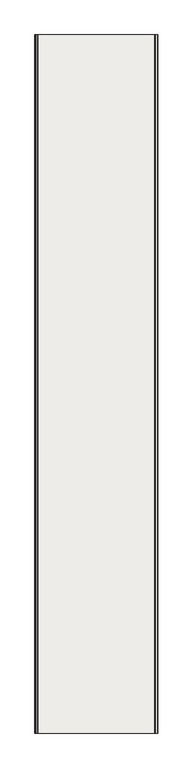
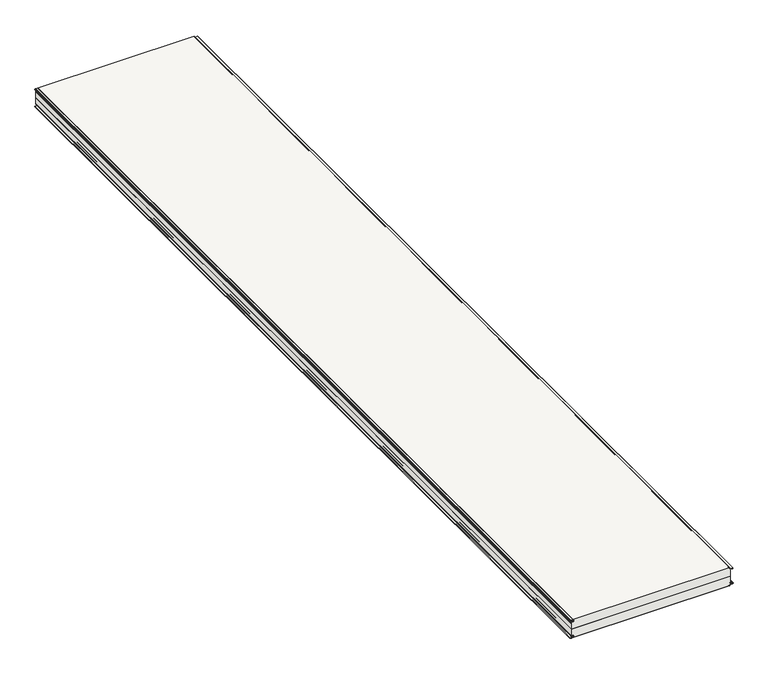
"""IFC4 building model written with IfcOpenShell, lengths in millimetres: covering geometry, Wall sandwich panel SPW-S CORE PIR (single sheet) : -."""

from ifc_helpers import new_model, si_unit, point, frame, frame_2d, origin, place, context, project, spatial, polyline, circle_curve, trimmed, segment, composite_curve, outline, extrude, source, transform, mapped, element, save
from ifc_brep_helpers import plane_surface, cylinder_surface, revolved_surface, advanced_brep


def covering_d70cc3ef(model_context):
    return source(origin(), model_context, "Body", "SolidModel", [
        extrude(outline(composite_curve([segment(trimmed(circle_curve(frame_2d((-117.0000044, -1037.1173522)), 1.9999956), [point((-119.0, -1037.1173522))], [point((-115.0012272, -1037.1871545))], True, "CARTESIAN"), True, "CONTINUOUS"), segment(polyline([(-115.0012272, -1037.1871545), (-114.4480424, -1021.346807)]), True, "CONTINUOUS"), segment(trimmed(circle_curve(frame_2d((-109.950784, -1021.5038626)), 4.5), [point((-114.4480424, -1021.346807))], [point((-105.4569506, -1021.2683586))], False, "CARTESIAN"), True, "CONTINUOUS"), segment(polyline([(-105.4569506, -1021.2683586), (-104.890434, -1032.0785013)]), True, "CONTINUOUS"), segment(trimmed(circle_curve(frame_2d((-103.3924895, -1032.0)), 1.5), [point((-104.890434, -1032.0785013))], [point((-103.3924895, -1033.5))], True, "CARTESIAN"), True, "CONTINUOUS"), segment(polyline([(-103.3924895, -1033.5), (-100.8924895, -1033.5), (-100.8924895, -1034.5), (-103.3924895, -1034.5)]), True, "CONTINUOUS"), segment(trimmed(circle_curve(frame_2d((-103.3924895, -1032.0)), 2.5), [point((-103.3924895, -1034.5))], [point((-105.8890636, -1032.1308355))], False, "CARTESIAN"), True, "CONTINUOUS"), segment(polyline([(-105.8890636, -1032.1308355), (-106.4555803, -1021.3206928)]), True, "CONTINUOUS"), segment(trimmed(circle_curve(frame_2d((-109.950784, -1021.5038626)), 3.5), [point((-106.4555803, -1021.3206928))], [point((-113.4486516, -1021.3817082))], True, "CARTESIAN"), True, "CONTINUOUS"), segment(polyline([(-113.4486516, -1021.3817082), (-114.0018364, -1037.2220557)]), True, "CONTINUOUS"), segment(trimmed(circle_curve(frame_2d((-117.0000044, -1037.1173522)), 2.9999956), [point((-114.0018364, -1037.2220557))], [point((-120.0, -1037.1173522))], False, "CARTESIAN"), True, "CONTINUOUS"), segment(polyline([(-120.0, -1037.1173522), (-120.0, -1035.0), (-119.0, -1035.0), (-119.0, -1037.1173522)]), True, "CONTINUOUS")], self_intersect=False)), frame((0.0, -5800.0, 0.0), z_axis=(0.0, 1.0, 0.0), x_axis=(0.0, 0.0, 1.0)), (0.0, 0.0, 1.0), 5800.0),
        extrude(outline(composite_curve([segment(polyline([(-1.0, -1037.1173522), (-1.0, -1035.0), (0.0, -1035.0), (0.0, -1037.1173522)]), True, "CONTINUOUS"), segment(trimmed(circle_curve(frame_2d((-2.9999956, -1037.1173522)), 2.9999956), [point((0.0, -1037.1173522))], [point((-5.9981636, -1037.2220557))], False, "CARTESIAN"), True, "CONTINUOUS"), segment(polyline([(-5.9981636, -1037.2220557), (-6.5513484, -1021.3817082)]), True, "CONTINUOUS"), segment(trimmed(circle_curve(frame_2d((-10.049216, -1021.5038626)), 3.5), [point((-6.5513484, -1021.3817082))], [point((-13.5444197, -1021.3206928))], True, "CARTESIAN"), True, "CONTINUOUS"), segment(polyline([(-13.5444197, -1021.3206928), (-14.1109364, -1032.1308355)]), True, "CONTINUOUS"), segment(trimmed(circle_curve(frame_2d((-16.6075105, -1032.0)), 2.5), [point((-14.1109364, -1032.1308355))], [point((-16.6075105, -1034.5))], False, "CARTESIAN"), True, "CONTINUOUS"), segment(polyline([(-16.6075105, -1034.5), (-19.1075105, -1034.5), (-19.1075105, -1033.5), (-16.6075105, -1033.5)]), True, "CONTINUOUS"), segment(trimmed(circle_curve(frame_2d((-16.6075105, -1032.0)), 1.5), [point((-16.6075105, -1033.5))], [point((-15.109566, -1032.0785013))], True, "CARTESIAN"), True, "CONTINUOUS"), segment(polyline([(-15.109566, -1032.0785013), (-14.5430494, -1021.2683586)]), True, "CONTINUOUS"), segment(trimmed(circle_curve(frame_2d((-10.049216, -1021.5038626)), 4.5), [point((-14.5430494, -1021.2683586))], [point((-5.5519576, -1021.346807))], False, "CARTESIAN"), True, "CONTINUOUS"), segment(polyline([(-5.5519576, -1021.346807), (-4.9987728, -1037.1871545)]), True, "CONTINUOUS"), segment(trimmed(circle_curve(frame_2d((-2.9999956, -1037.1173522)), 1.9999956), [point((-4.9987728, -1037.1871545))], [point((-1.0, -1037.1173522))], True, "CARTESIAN"), True, "CONTINUOUS")], self_intersect=False)), frame((0.0, -5800.0, 0.0), z_axis=(0.0, 1.0, 0.0), x_axis=(0.0, 0.0, 1.0)), (0.0, 0.0, 1.0), 5800.0),
        advanced_brep(
        [(-1035.0, 0.0, -119.0), (-43.1186621, 0.0, -119.0), (-41.1186621, 0.0, -117.0), (-41.1186621, 0.0, -114.93), (-39.1884611, 0.0, -112.9312183), (-22.5992017, 0.0, -112.3519086), (-22.43132, 0.0, -107.5379716), (-33.6570079, 0.0, -106.9496582), (-36.5, 0.0, -103.9537696), (-36.5, 0.0, -101.4537696), (-35.5, 0.0, -101.4537696), (-35.5, 0.0, -103.9537696), (-33.6046719, 0.0, -105.9510287), (-22.6071775, 0.0, -106.5273829), (-22.6835162, 0.0, -113.3501612), (-39.1535616, 0.0, -113.9306092), (-40.1186621, 0.0, -114.93), (-40.1186621, 0.0, -117.0), (-43.1186621, 0.0, -120.0), (-1035.0, 0.0, -120.0), (-1035.0, -5800.0, -119.0), (-1035.0, -5800.0, -120.0), (-43.1186621, -5800.0, -120.0), (-40.1186621, -5800.0, -117.0), (-40.1186621, -5800.0, -114.93), (-39.1535616, -5800.0, -113.9306092), (-22.7218558, -5800.0, -113.3568014), (-22.6835162, -5800.0, -106.5247545), (-33.6046719, -5800.0, -105.9510287), (-35.5, -5800.0, -103.9537696), (-35.5, -5800.0, -101.4537696), (-36.5, -5800.0, -101.4537696), (-36.5, -5800.0, -103.9537696), (-33.6570079, -5800.0, -106.9496582), (-22.43132, -5800.0, -107.5379716), (-22.5993141, -5800.0, -112.3486915), (-39.1884611, -5800.0, -112.9312183), (-41.1186621, -5800.0, -114.93), (-41.1186621, -5800.0, -117.0), (-43.1186621, -5800.0, -119.0)],
        [
            (0, 1),
            (1, 2, circle_curve(frame((-43.1186621, 0.0, -117.0), z_axis=(0.0, -1.0, 0.0), x_axis=(1.0, 0.0, 0.0)), 2.0)),
            (2, 3),
            (3, 4, circle_curve(frame((-39.1186621, 0.0, -114.93), z_axis=(0.0, 1.0, 0.0), x_axis=(1.0, 0.0, 0.0)), 2.0)),
            (4, 5),
            (5, 6, circle_curve(frame((-22.6835162, 0.0, -109.9374579), z_axis=(0.0, -1.0, 0.0), x_axis=(1.0, 0.0, 0.0)), 2.4127033)),
            (6, 7),
            (7, 8, circle_curve(frame((-33.5, 0.0, -103.9537696), z_axis=(0.0, 1.0, 0.0), x_axis=(1.0, 0.0, 0.0)), 3.0)),
            (8, 9),
            (9, 10),
            (10, 11),
            (11, 12, circle_curve(frame((-33.5, 0.0, -103.9537696), z_axis=(0.0, -1.0, 0.0), x_axis=(1.0, 0.0, 0.0)), 2.0)),
            (12, 13),
            (13, 14, circle_curve(frame((-22.6835162, 0.0, -109.9374579), z_axis=(0.0, 1.0, 0.0), x_axis=(1.0, 0.0, 0.0)), 3.4127033)),
            (14, 15),
            (15, 16, circle_curve(frame((-39.1186621, 0.0, -114.93), z_axis=(0.0, -1.0, 0.0), x_axis=(1.0, 0.0, 0.0)), 1.0)),
            (16, 17),
            (17, 18, circle_curve(frame((-43.1186621, 0.0, -117.0), z_axis=(0.0, 1.0, 0.0), x_axis=(1.0, 0.0, 0.0)), 3.0)),
            (18, 19),
            (19, 0),
            (20, 21),
            (21, 22),
            (22, 23, circle_curve(frame((-43.1186621, -5800.0, -117.0), z_axis=(0.0, -1.0, 0.0), x_axis=(1.0, 0.0, 0.0)), 3.0)),
            (23, 24),
            (24, 25, circle_curve(frame((-39.1186621, -5800.0, -114.93), z_axis=(0.0, 1.0, 0.0), x_axis=(1.0, 0.0, 0.0)), 1.0)),
            (25, 26),
            (26, 27, circle_curve(frame((-22.6835162, -5800.0, -109.9374579), z_axis=(0.0, -1.0, 0.0), x_axis=(1.0, 0.0, 0.0)), 3.4127033)),
            (27, 28),
            (28, 29, circle_curve(frame((-33.5, -5800.0, -103.9537696), z_axis=(0.0, 1.0, 0.0), x_axis=(1.0, 0.0, 0.0)), 2.0)),
            (29, 30),
            (30, 31),
            (31, 32),
            (32, 33, circle_curve(frame((-33.5, -5800.0, -103.9537696), z_axis=(0.0, -1.0, 0.0), x_axis=(1.0, 0.0, 0.0)), 3.0)),
            (33, 34),
            (34, 35, circle_curve(frame((-22.6835162, -5800.0, -109.9374579), z_axis=(0.0, 1.0, 0.0), x_axis=(1.0, 0.0, 0.0)), 2.4127033)),
            (35, 36),
            (36, 37, circle_curve(frame((-39.1186621, -5800.0, -114.93), z_axis=(0.0, -1.0, 0.0), x_axis=(1.0, 0.0, 0.0)), 2.0)),
            (37, 38),
            (38, 39, circle_curve(frame((-43.1186621, -5800.0, -117.0), z_axis=(0.0, 1.0, 0.0), x_axis=(1.0, 0.0, 0.0)), 2.0)),
            (39, 20),
            (0, 20),
            (39, 1),
            (18, 22),
            (21, 19),
            (3, 37),
            (36, 4),
            (2, 38),
            (35, 5),
            (6, 34),
            (33, 7),
            (9, 31),
            (30, 10),
            (32, 8),
            (15, 25),
            (24, 16),
            (29, 11),
            (28, 12),
            (27, 13),
            (26, 14),
            (23, 17),
        ],
        [
            plane_surface(frame((-30.0, 0.0, -120.0), z_axis=(0.0, 1.0, 0.0), x_axis=(-1.0, 0.0, 0.0))),
            plane_surface(frame((-30.0, -5800.0, -120.0), z_axis=(0.0, -1.0, 0.0), x_axis=(-1.0, 0.0, 0.0))),
            plane_surface(frame((-1035.0, 0.0, -119.0), z_axis=(0.0, 0.0, 1.0), x_axis=(0.0, -1.0, 0.0))),
            plane_surface(frame((-43.1186621, 0.0, -120.0), z_axis=(0.0, 0.0, -1.0), x_axis=(0.0, -1.0, 0.0))),
            cylinder_surface(frame((-39.1186621, 0.0, -114.93), z_axis=(0.0, 1.0, 0.0), x_axis=(1.0, 0.0, 0.0)), 2.0),
            plane_surface(frame((-41.1186621, 0.0, -117.0), z_axis=(-1.0, 0.0, 0.0), x_axis=(0.0, -1.0, 0.0))),
            revolved_surface(polyline([(-41.1186621, -5800.0, -117.0), (-41.1186621, 0.0, -117.0)]), (-43.1186621, 0.0, -117.0), (0.0, -1.0, 0.0)),
            plane_surface(frame((-39.1884611, 0.0, -112.9312183), z_axis=(-0.034899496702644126, 0.0, 0.9993908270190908), x_axis=(0.0, -1.0, 0.0))),
            plane_surface(frame((-22.43132, 0.0, -107.5379716), z_axis=(-0.05233595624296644, 0.0, -0.9986295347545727), x_axis=(0.0, -1.0, 0.0))),
            plane_surface(frame((-36.5, 0.0, -101.4537696), z_axis=(0.0, 0.0, 1.0), x_axis=(0.0, -1.0, 0.0))),
            cylinder_surface(frame((-33.5, 0.0, -103.9537696), z_axis=(0.0, 1.0, 0.0), x_axis=(1.0, 0.0, 0.0)), 3.0),
            plane_surface(frame((-36.5, 0.0, -103.9537696), z_axis=(-1.0, 0.0, 0.0), x_axis=(0.0, -1.0, 0.0))),
            revolved_surface(polyline([(-38.1186621, -5800.0, -114.93), (-38.1186621, 0.0, -114.93)]), (-39.1186621, 0.0, -114.93), (0.0, -1.0, 0.0)),
            plane_surface(frame((-35.5, 0.0, -101.4537696), z_axis=(1.0, 0.0, 0.0), x_axis=(0.0, -1.0, 0.0))),
            revolved_surface(polyline([(-31.5, -5800.0, -103.9537696), (-31.5, 0.0, -103.9537696)]), (-33.5, 0.0, -103.9537696), (0.0, -1.0, 0.0)),
            plane_surface(frame((-33.6046719, 0.0, -105.9510287), z_axis=(0.05233595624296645, 0.0, 0.9986295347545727), x_axis=(0.0, -1.0, 0.0))),
            revolved_surface(polyline([(-20.2708129, -5800.0, -109.9374579), (-20.2708129, 0.0, -109.9374579)]), (-22.6835162, 0.0, -109.9374579), (0.0, -1.0, 0.0)),
            cylinder_surface(frame((-22.6835162, 0.0, -109.9374579), z_axis=(0.0, 1.0, 0.0), x_axis=(1.0, 0.0, 0.0)), 3.4127033),
            plane_surface(frame((-1035.0, 0.0, -120.0), z_axis=(-1.0, 0.0, 0.0), x_axis=(0.0, -1.0, 0.0))),
            plane_surface(frame((-22.7218558, 0.0, -113.3568014), z_axis=(0.03489949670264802, 0.0, -0.9993908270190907), x_axis=(0.0, -1.0, 0.0))),
            plane_surface(frame((-40.1186621, 0.0, -114.93), z_axis=(1.0, 0.0, 0.0), x_axis=(0.0, -1.0, 0.0))),
            cylinder_surface(frame((-43.1186621, 0.0, -117.0), z_axis=(0.0, 1.0, 0.0), x_axis=(1.0, 0.0, 0.0)), 3.0),
        ],
        [
            (0, [[1, 2, 3, 4, 5, 6, 7, 8, 9, 10, 11, 12, 13, 14, 15, 16, 17, 18, 19, 20]]),
            (1, [[21, 22, 23, 24, 25, 26, 27, 28, 29, 30, 31, 32, 33, 34, 35, 36, 37, 38, 39, 40]]),
            (2, [[-1, 41, -40, 42]]),
            (3, [[-19, 43, -22, 44]]),
            (4, [[-4, 45, -37, 46]]),
            (5, [[-3, 47, -38, -45]]),
            (6, [[-2, -42, -39, -47]]),
            (7, [[-5, -46, -36, 48]]),
            (8, [[-7, 49, -34, 50]]),
            (9, [[-10, 51, -31, 52]]),
            (10, [[-8, -50, -33, 53]]),
            (11, [[-9, -53, -32, -51]]),
            (12, [[-16, 54, -25, 55]]),
            (13, [[-11, -52, -30, 56]]),
            (14, [[-12, -56, -29, 57]]),
            (15, [[-13, -57, -28, 58]]),
            (16, [[-6, -48, -35, -49]]),
            (17, [[-14, -58, -27, 59]]),
            (18, [[-20, -44, -21, -41]]),
            (19, [[-15, -59, -26, -54]]),
            (20, [[-17, -55, -24, 60]]),
            (21, [[-18, -60, -23, -43]]),
        ],
    ),
        advanced_brep(
        [(-1037.1871545, -5800.0, -115.0012272), (-1037.1871545, 0.0, -115.0012272), (-1037.1173522, 0.0, -119.0), (-1037.1173522, -5800.0, -119.0), (-1021.346807, -5800.0, -114.4480424), (-1021.346807, 0.0, -114.4480424), (-1021.2683586, -5800.0, -105.4569506), (-1021.2683586, 0.0, -105.4569506), (-1032.0785013, -5800.0, -104.890434), (-1032.0785013, 0.0, -104.890434), (-1033.5, -5800.0, -103.3924895), (-1033.5, 0.0, -103.3924895), (-1033.5, -5800.0, -60.0), (-1033.5, 0.0, -60.0), (-1035.0, -5800.0, -119.0), (-44.6192414, -5800.0, -119.0), (-43.1186621, -5800.0, -119.0), (-41.1186621, -5800.0, -117.0), (-41.1186621, -5800.0, -114.93), (-39.1884611, -5800.0, -112.9312183), (-22.5992017, -5800.0, -112.3519086), (-22.1786572, -5800.0, -107.5781667), (-33.6570078, -5800.0, -106.9496582), (-36.5, -5800.0, -103.9537696), (-36.5, -5800.0, -60.0), (-1035.0, 0.0, -119.0), (-36.5, 0.0, -60.0), (-36.5, 0.0, -103.9537696), (-33.6570078, 0.0, -106.9496582), (-22.1786572, 0.0, -107.5781667), (-22.5993141, 0.0, -112.3486915), (-39.1884611, 0.0, -112.9312183), (-41.1186621, 0.0, -114.93), (-41.1186621, 0.0, -117.0), (-43.1186621, 0.0, -119.0), (-44.6192414, 0.0, -119.0)],
        [
            (0, 1),
            (1, 2, circle_curve(frame((-1037.1173522, 0.0, -117.0000044), z_axis=(0.0, -1.0, 0.0), x_axis=(-1.0, 0.0, 0.0)), 1.9999956)),
            (2, 3),
            (3, 0, circle_curve(frame((-1037.1173522, -5800.0, -117.0000044), z_axis=(0.0, 1.0, 0.0), x_axis=(-1.0, 0.0, 0.0)), 1.9999956)),
            (0, 4),
            (4, 5),
            (5, 1),
            (4, 6, circle_curve(frame((-1021.5038626, -5800.0, -109.950784), z_axis=(0.0, -1.0, 0.0), x_axis=(-1.0, 0.0, 0.0)), 4.5)),
            (6, 7),
            (7, 5, circle_curve(frame((-1021.5038626, 0.0, -109.950784), z_axis=(0.0, 1.0, 0.0), x_axis=(-1.0, 0.0, 0.0)), 4.5)),
            (6, 8),
            (8, 9),
            (9, 7),
            (8, 10, circle_curve(frame((-1032.0, -5800.0, -103.3924895), z_axis=(0.0, 1.0, 0.0), x_axis=(-1.0, 0.0, 0.0)), 1.5)),
            (10, 11),
            (11, 9, circle_curve(frame((-1032.0, 0.0, -103.3924895), z_axis=(0.0, -1.0, 0.0), x_axis=(-1.0, 0.0, 0.0)), 1.5)),
            (10, 12),
            (12, 13),
            (13, 11),
            (3, 14),
            (14, 15),
            (15, 16),
            (16, 17, circle_curve(frame((-43.1186621, -5800.0, -117.0), z_axis=(0.0, -1.0, 0.0), x_axis=(-1.0, 0.0, 0.0)), 2.0)),
            (17, 18),
            (18, 19, circle_curve(frame((-39.1186621, -5800.0, -114.93), z_axis=(0.0, 1.0, 0.0), x_axis=(-1.0, 0.0, 0.0)), 2.0)),
            (19, 20),
            (20, 21, circle_curve(frame((-22.6835162, -5800.0, -109.9374579), z_axis=(0.0, -1.0, 0.0), x_axis=(-1.0, 0.0, 0.0)), 2.4127033)),
            (21, 22),
            (22, 23, circle_curve(frame((-33.5, -5800.0, -103.9537696), z_axis=(0.0, 1.0, 0.0), x_axis=(-1.0, 0.0, 0.0)), 3.0)),
            (23, 24),
            (24, 12),
            (25, 2),
            (13, 26),
            (26, 27),
            (27, 28, circle_curve(frame((-33.5, 0.0, -103.9537696), z_axis=(0.0, -1.0, 0.0), x_axis=(-1.0, 0.0, 0.0)), 3.0)),
            (28, 29),
            (29, 30, circle_curve(frame((-22.6835162, 0.0, -109.9374579), z_axis=(0.0, 1.0, 0.0), x_axis=(-1.0, 0.0, 0.0)), 2.4127033)),
            (30, 31),
            (31, 32, circle_curve(frame((-39.1186621, 0.0, -114.93), z_axis=(0.0, -1.0, 0.0), x_axis=(-1.0, 0.0, 0.0)), 2.0)),
            (32, 33),
            (33, 34, circle_curve(frame((-43.1186621, 0.0, -117.0), z_axis=(0.0, 1.0, 0.0), x_axis=(-1.0, 0.0, 0.0)), 2.0)),
            (34, 35),
            (35, 25),
            (24, 26),
            (34, 16),
            (23, 27),
            (22, 28),
            (21, 29),
            (20, 30),
            (19, 31),
            (18, 32),
            (17, 33),
        ],
        [
            cylinder_surface(frame((-1037.1173522, -5800.0, -117.0000044), z_axis=(0.0, 1.0, 0.0), x_axis=(-1.0, 0.0, 0.0)), 1.9999956),
            plane_surface(frame((-1037.1871545, -5800.0, -115.0012272), z_axis=(-0.034901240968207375, 0.0, 0.9993907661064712), x_axis=(0.0, 1.0, 0.0))),
            revolved_surface(polyline([(-1026.0038626, -5800.0, -109.950784), (-1026.0038626, 0.0, -109.950784)]), (-1021.5038626, -5800.0, -109.950784), (0.0, -1.0, 0.0)),
            plane_surface(frame((-1021.2683586, -5800.0, -105.4569506), z_axis=(-0.05233421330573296, 0.0, -0.9986296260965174), x_axis=(0.0, 1.0, 0.0))),
            cylinder_surface(frame((-1032.0, -5800.0, -103.3924895), z_axis=(0.0, 1.0, 0.0), x_axis=(-1.0, 0.0, 0.0)), 1.5),
            plane_surface(frame((-1033.5, -5800.0, -103.3924895), z_axis=(-1.0, 0.0, 0.0), x_axis=(0.0, 1.0, 0.0))),
            plane_surface(frame((-1065.0, -5800.0, -60.0), z_axis=(0.0, -1.0, 0.0), x_axis=(-1.0, 0.0, 0.0))),
            plane_surface(frame((-1065.0, 0.0, -60.0), z_axis=(0.0, 1.0, 0.0), x_axis=(1.0, 0.0, 0.0))),
            plane_surface(frame((15.0, -5800.0, -60.0), z_axis=(0.0, 0.0, 1.0), x_axis=(0.0, 1.0, 0.0))),
            plane_surface(frame((-1065.0, -5800.0, -119.0), z_axis=(0.0, 0.0, -1.0), x_axis=(0.0, 1.0, 0.0))),
            plane_surface(frame((-36.5, -5800.0, -16.0462304), z_axis=(1.0, 0.0, 0.0), x_axis=(0.0, 1.0, 0.0))),
            revolved_surface(polyline([(-36.5, -5800.0, -103.9537696), (-36.5, 0.0, -103.9537696)]), (-33.5, -5800.0, -103.9537696), (0.0, -1.0, 0.0)),
            plane_surface(frame((-33.6570078, -5800.0, -106.9496582), z_axis=(0.05467409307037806, 0.0, 0.9985042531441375), x_axis=(0.0, 1.0, 0.0))),
            cylinder_surface(frame((-22.6835162, -5800.0, -109.9374579), z_axis=(0.0, 1.0, 0.0), x_axis=(-1.0, 0.0, 0.0)), 2.4127033),
            plane_surface(frame((-22.5992017, -5800.0, -112.3519086), z_axis=(0.034899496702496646, 0.0, -0.9993908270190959), x_axis=(0.0, 1.0, 0.0))),
            revolved_surface(polyline([(-41.1186621, -5800.0, -114.93), (-41.1186621, 0.0, -114.93)]), (-39.1186621, -5800.0, -114.93), (0.0, -1.0, 0.0)),
            plane_surface(frame((-41.1186621, -5800.0, -114.93), z_axis=(1.0, 0.0, 0.0), x_axis=(0.0, 1.0, 0.0))),
            cylinder_surface(frame((-43.1186621, -5800.0, -117.0), z_axis=(0.0, 1.0, 0.0), x_axis=(-1.0, 0.0, 0.0)), 2.0),
        ],
        [
            (0, [[1, 2, 3, 4]]),
            (1, [[-1, 5, 6, 7]]),
            (2, [[-6, 8, 9, 10]]),
            (3, [[-9, 11, 12, 13]]),
            (4, [[-12, 14, 15, 16]]),
            (5, [[-15, 17, 18, 19]]),
            (6, [[20, 21, 22, 23, 24, 25, 26, 27, 28, 29, 30, 31, -17, -14, -11, -8, -5, -4]]),
            (7, [[32, -2, -7, -10, -13, -16, -19, 33, 34, 35, 36, 37, 38, 39, 40, 41, 42, 43]]),
            (8, [[-18, -31, 44, -33]]),
            (9, [[-20, -3, -32, -43, -42, 45, -22, -21]]),
            (10, [[46, -34, -44, -30]]),
            (11, [[-46, -29, 47, -35]]),
            (12, [[-47, -28, 48, -36]]),
            (13, [[-48, -27, 49, -37]]),
            (14, [[-49, -26, 50, -38]]),
            (15, [[-50, -25, 51, -39]]),
            (16, [[-51, -24, 52, -40]]),
            (17, [[-52, -23, -45, -41]]),
        ],
    ),
        advanced_brep(
        [(-1035.0, -5800.0, -1.0), (-1037.1173522, -5800.0, -1.0), (-1037.1871545, -5800.0, -4.9987728), (-1021.346807, -5800.0, -5.5519576), (-1021.2683586, -5800.0, -14.5430494), (-1032.0785013, -5800.0, -15.109566), (-1033.5, -5800.0, -16.6075105), (-1033.5, -5800.0, -60.0), (-36.5, -5800.0, -60.0), (-36.5, -5800.0, -16.0462304), (-33.6570079, -5800.0, -13.0503418), (-22.43132, -5800.0, -12.4620284), (-22.5993141, -5800.0, -7.6513085), (-39.1884611, -5800.0, -7.0687817), (-41.1186621, -5800.0, -5.07), (-41.1186621, -5800.0, -3.0), (-43.1186621, -5800.0, -1.0), (-1037.1173522, 0.0, -1.0), (-1035.0, 0.0, -1.0), (-43.1186621, 0.0, -1.0), (-41.1186621, 0.0, -3.0), (-41.1186621, 0.0, -5.07), (-39.1884611, 0.0, -7.0687817), (-22.5992017, 0.0, -7.6480914), (-22.43132, 0.0, -12.4620284), (-33.6570079, 0.0, -13.0503418), (-36.5, 0.0, -16.0462304), (-36.5, 0.0, -60.0), (-1033.5, 0.0, -60.0), (-1033.5, 0.0, -16.6075105), (-1032.0785013, 0.0, -15.109566), (-1021.2683586, 0.0, -14.5430494), (-1021.346807, 0.0, -5.5519576), (-1037.1871545, 0.0, -4.9987728)],
        [
            (0, 1),
            (1, 2, circle_curve(frame((-1037.1173522, -5800.0, -2.9999956), z_axis=(0.0, -1.0, 0.0), x_axis=(-1.0, 0.0, 0.0)), 1.9999956)),
            (2, 3),
            (3, 4, circle_curve(frame((-1021.5038626, -5800.0, -10.049216), z_axis=(0.0, 1.0, 0.0), x_axis=(-1.0, 0.0, 0.0)), 4.5)),
            (4, 5),
            (5, 6, circle_curve(frame((-1032.0, -5800.0, -16.6075105), z_axis=(0.0, -1.0, 0.0), x_axis=(-1.0, 0.0, 0.0)), 1.5)),
            (6, 7),
            (7, 8),
            (8, 9),
            (9, 10, circle_curve(frame((-33.5, -5800.0, -16.0462304), z_axis=(0.0, 1.0, 0.0), x_axis=(-1.0, 0.0, 0.0)), 3.0)),
            (10, 11),
            (11, 12, circle_curve(frame((-22.6835162, -5800.0, -10.0625421), z_axis=(0.0, -1.0, 0.0), x_axis=(-1.0, 0.0, 0.0)), 2.4127033)),
            (12, 13),
            (13, 14, circle_curve(frame((-39.1186621, -5800.0, -5.07), z_axis=(0.0, 1.0, 0.0), x_axis=(-1.0, 0.0, 0.0)), 2.0)),
            (14, 15),
            (15, 16, circle_curve(frame((-43.1186621, -5800.0, -3.0), z_axis=(0.0, -1.0, 0.0), x_axis=(-1.0, 0.0, 0.0)), 2.0)),
            (16, 0),
            (17, 18),
            (18, 19),
            (19, 20, circle_curve(frame((-43.1186621, 0.0, -3.0), z_axis=(0.0, 1.0, 0.0), x_axis=(-1.0, 0.0, 0.0)), 2.0)),
            (20, 21),
            (21, 22, circle_curve(frame((-39.1186621, 0.0, -5.07), z_axis=(0.0, -1.0, 0.0), x_axis=(-1.0, 0.0, 0.0)), 2.0)),
            (22, 23),
            (23, 24, circle_curve(frame((-22.6835162, 0.0, -10.0625421), z_axis=(0.0, 1.0, 0.0), x_axis=(-1.0, 0.0, 0.0)), 2.4127033)),
            (24, 25),
            (25, 26, circle_curve(frame((-33.5, 0.0, -16.0462304), z_axis=(0.0, -1.0, 0.0), x_axis=(-1.0, 0.0, 0.0)), 3.0)),
            (26, 27),
            (27, 28),
            (28, 29),
            (29, 30, circle_curve(frame((-1032.0, 0.0, -16.6075105), z_axis=(0.0, 1.0, 0.0), x_axis=(-1.0, 0.0, 0.0)), 1.5)),
            (30, 31),
            (31, 32, circle_curve(frame((-1021.5038626, 0.0, -10.049216), z_axis=(0.0, -1.0, 0.0), x_axis=(-1.0, 0.0, 0.0)), 4.5)),
            (32, 33),
            (33, 17, circle_curve(frame((-1037.1173522, 0.0, -2.9999956), z_axis=(0.0, 1.0, 0.0), x_axis=(-1.0, 0.0, 0.0)), 1.9999956)),
            (16, 19),
            (17, 1),
            (7, 28),
            (27, 8),
            (6, 29),
            (5, 30),
            (4, 31),
            (3, 32),
            (2, 33),
            (15, 20),
            (14, 21),
            (13, 22),
            (12, 23),
            (11, 24),
            (10, 25),
            (9, 26),
        ],
        [
            plane_surface(frame((-1065.0, -5800.0, -1.0), z_axis=(0.0, -1.0, 0.0), x_axis=(-1.0, 0.0, 0.0))),
            plane_surface(frame((-1065.0, 0.0, -1.0), z_axis=(0.0, 1.0, 0.0), x_axis=(1.0, 0.0, 0.0))),
            plane_surface(frame((15.0, -5800.0, -1.0), z_axis=(0.0, 0.0, 1.0), x_axis=(0.0, 1.0, 0.0))),
            plane_surface(frame((-1065.0, -5800.0, -60.0), z_axis=(0.0, 0.0, -1.0), x_axis=(0.0, 1.0, 0.0))),
            plane_surface(frame((-1033.5, -5800.0, -103.3924895), z_axis=(-1.0, 0.0, 0.0), x_axis=(0.0, 1.0, 0.0))),
            cylinder_surface(frame((-1032.0, -5800.0, -16.6075105), z_axis=(0.0, 1.0, 0.0), x_axis=(-1.0, 0.0, 0.0)), 1.5),
            plane_surface(frame((-1032.0785013, -5800.0, -15.109566), z_axis=(-0.052334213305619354, 0.0, 0.9986296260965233), x_axis=(0.0, 1.0, 0.0))),
            revolved_surface(polyline([(-1026.0038626, -5800.0, -10.049216), (-1026.0038626, 0.0, -10.049216)]), (-1021.5038626, -5800.0, -10.049216), (0.0, -1.0, 0.0)),
            plane_surface(frame((-1021.346807, -5800.0, -5.5519576), z_axis=(-0.03490124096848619, 0.0, -0.9993907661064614), x_axis=(0.0, 1.0, 0.0))),
            cylinder_surface(frame((-1037.1173522, -5800.0, -2.9999956), z_axis=(0.0, 1.0, 0.0), x_axis=(-1.0, 0.0, 0.0)), 1.9999956),
            cylinder_surface(frame((-43.1186621, -5800.0, -3.0), z_axis=(0.0, 1.0, 0.0), x_axis=(-1.0, 0.0, 0.0)), 2.0),
            plane_surface(frame((-41.1186621, -5800.0, -3.0), z_axis=(1.0, 0.0, 0.0), x_axis=(0.0, 1.0, 0.0))),
            revolved_surface(polyline([(-41.1186621, -5800.0, -5.07), (-41.1186621, 0.0, -5.07)]), (-39.1186621, -5800.0, -5.07), (0.0, -1.0, 0.0)),
            plane_surface(frame((-39.1884611, -5800.0, -7.0687817), z_axis=(0.03489949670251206, 0.0, 0.9993908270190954), x_axis=(0.0, 1.0, 0.0))),
            cylinder_surface(frame((-22.6835162, -5800.0, -10.0625421), z_axis=(0.0, 1.0, 0.0), x_axis=(-1.0, 0.0, 0.0)), 2.4127033),
            plane_surface(frame((-22.43132, -5800.0, -12.4620284), z_axis=(0.05233595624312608, 0.0, -0.9986295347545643), x_axis=(0.0, 1.0, 0.0))),
            revolved_surface(polyline([(-36.5, -5800.0, -16.0462304), (-36.5, 0.0, -16.0462304)]), (-33.5, -5800.0, -16.0462304), (0.0, -1.0, 0.0)),
            plane_surface(frame((-36.5, -5800.0, -16.0462304), z_axis=(1.0, 0.0, 0.0), x_axis=(0.0, 1.0, 0.0))),
        ],
        [
            (0, [[1, 2, 3, 4, 5, 6, 7, 8, 9, 10, 11, 12, 13, 14, 15, 16, 17]]),
            (1, [[18, 19, 20, 21, 22, 23, 24, 25, 26, 27, 28, 29, 30, 31, 32, 33, 34]]),
            (2, [[-1, -17, 35, -19, -18, 36]]),
            (3, [[37, -28, 38, -8]]),
            (4, [[39, -29, -37, -7]]),
            (5, [[-39, -6, 40, -30]]),
            (6, [[-40, -5, 41, -31]]),
            (7, [[-41, -4, 42, -32]]),
            (8, [[-42, -3, 43, -33]]),
            (9, [[-43, -2, -36, -34]]),
            (10, [[44, -20, -35, -16]]),
            (11, [[-44, -15, 45, -21]]),
            (12, [[-45, -14, 46, -22]]),
            (13, [[-46, -13, 47, -23]]),
            (14, [[-47, -12, 48, -24]]),
            (15, [[-48, -11, 49, -25]]),
            (16, [[-49, -10, 50, -26]]),
            (17, [[-50, -9, -38, -27]]),
        ],
    ),
    ])


if __name__ == "__main__":
    model = new_model("IFC4")
    model_context = context("Model", 3, world=origin())
    ifc_project = project(units=[si_unit("LENGTHUNIT", "METRE", prefix="MILLI")], contexts=[model_context])
    site = spatial("IfcSite", under=ifc_project)
    building = spatial("IfcBuilding", under=site)
    placement = place(None, origin())
    covering_shape = covering_d70cc3ef(model_context)
    element("IfcCovering", 1, ObjectType="Wall sandwich panel SPW-S CORE PIR (single sheet) : -", at=placement, inside=building, context=model_context, shape_type="MappedRepresentation", body=[
        mapped(covering_shape, transform((0.0, 0.0, 0.0), x_axis=(1.0, 0.0, 0.0), y_axis=(0.0, 1.0, 0.0), z_axis=(0.0, 0.0, 1.0))),
    ])
    save(model, "model.ifc")
